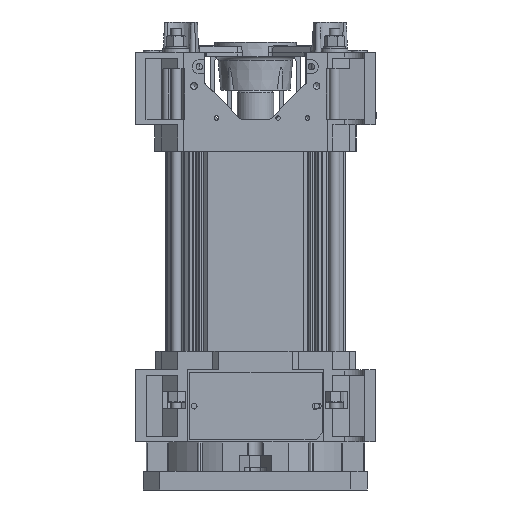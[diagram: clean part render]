
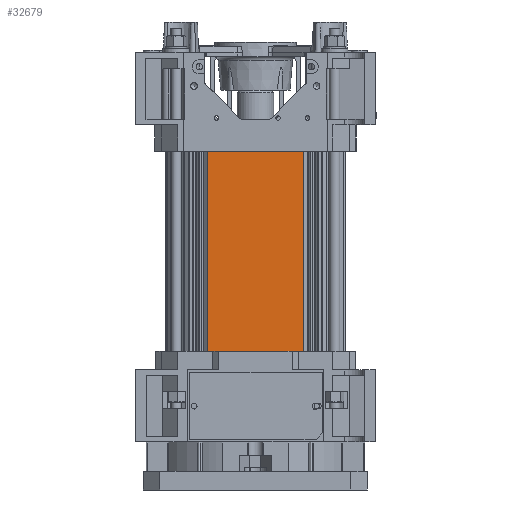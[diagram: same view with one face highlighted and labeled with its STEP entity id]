
A CAD part, left-side view. The second image highlights one B-rep face of the part: STEP entity #32679.
In plain terms, the highlighted planar face has unit normal (-1, 0, 0).
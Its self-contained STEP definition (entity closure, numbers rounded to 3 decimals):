
#3652=LINE('',#58081,#6614);
#3654=LINE('',#58085,#6616);
#3655=LINE('',#58087,#6617);
#3656=LINE('',#58088,#6618);
#6614=VECTOR('',#44967,10.);
#6616=VECTOR('',#44971,10.);
#6617=VECTOR('',#44972,10.);
#6618=VECTOR('',#44973,10.);
#7743=PLANE('',#35918);
#9624=FACE_OUTER_BOUND('',#11565,.T.);
#11565=EDGE_LOOP('',(#29882,#29883,#29884,#29885));
#16062=VERTEX_POINT('',#58078);
#16063=VERTEX_POINT('',#58080);
#16064=VERTEX_POINT('',#58084);
#16065=VERTEX_POINT('',#58086);
#20731=EDGE_CURVE('',#16063,#16062,#3652,.T.);
#20733=EDGE_CURVE('',#16062,#16064,#3654,.T.);
#20734=EDGE_CURVE('',#16065,#16064,#3655,.T.);
#20735=EDGE_CURVE('',#16065,#16063,#3656,.T.);
#29882=ORIENTED_EDGE('',*,*,#20733,.T.);
#29883=ORIENTED_EDGE('',*,*,#20734,.F.);
#29884=ORIENTED_EDGE('',*,*,#20735,.T.);
#29885=ORIENTED_EDGE('',*,*,#20731,.T.);
#32679=ADVANCED_FACE('',(#9624),#7743,.T.);
#35918=AXIS2_PLACEMENT_3D('',#58083,#44969,#44970);
#44967=DIRECTION('',(0.,0.,1.));
#44969=DIRECTION('center_axis',(-1.,0.,0.));
#44970=DIRECTION('ref_axis',(0.,0.,1.));
#44971=DIRECTION('',(0.,1.,0.));
#44972=DIRECTION('',(0.,0.,1.));
#44973=DIRECTION('',(0.,-1.,0.));
#58078=CARTESIAN_POINT('',(6476.011,-1945.032,160.));
#58080=CARTESIAN_POINT('',(6476.011,-1945.032,0.));
#58081=CARTESIAN_POINT('',(6476.011,-1945.032,0.));
#58083=CARTESIAN_POINT('Origin',(6476.011,-1945.032,0.));
#58084=CARTESIAN_POINT('',(6476.011,-1872.567,160.));
#58085=CARTESIAN_POINT('',(6476.011,-1872.567,160.));
#58086=CARTESIAN_POINT('',(6476.011,-1872.567,0.));
#58087=CARTESIAN_POINT('',(6476.011,-1872.567,0.));
#58088=CARTESIAN_POINT('',(6476.011,-1872.567,0.));
